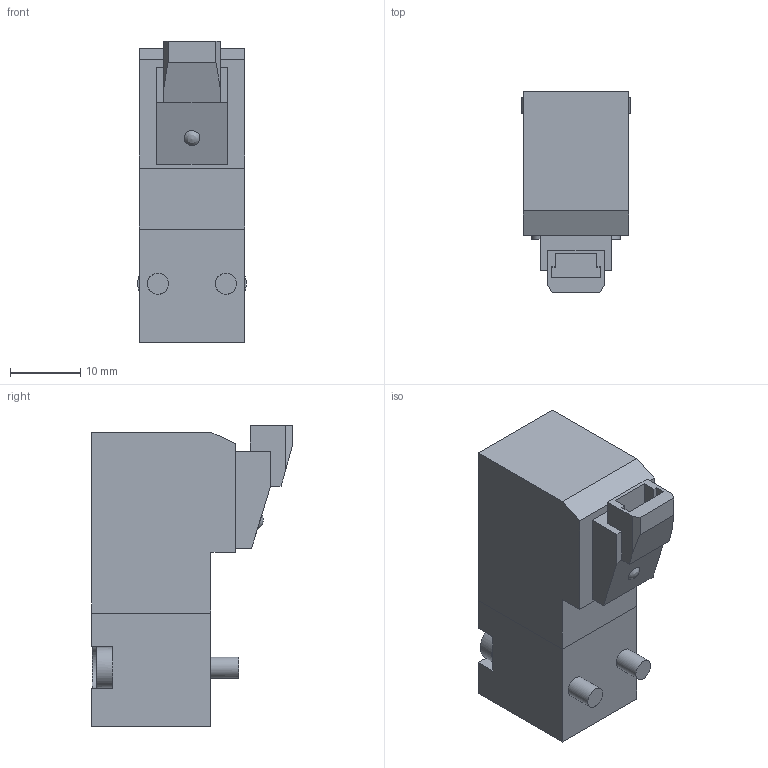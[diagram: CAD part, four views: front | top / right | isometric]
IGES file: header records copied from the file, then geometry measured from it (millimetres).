
Global section: file name: N3##_R7L#-2; native system: Autodesk Inventor 2014; preprocessor: unknown; author: A. Manieri; organization: Pneumax S.p.A.; date: 20160913.142040; units: millimetre
Bounding box: 15.5 x 28.6 x 42.97 mm (x, y, z)
Volume: 12259.7 mm3; surface area: 4105.8 mm2
Topology: 1 solids, 1 shells, 91 faces, 237 edges, 155 vertices
Faces by surface type: bspline 91
